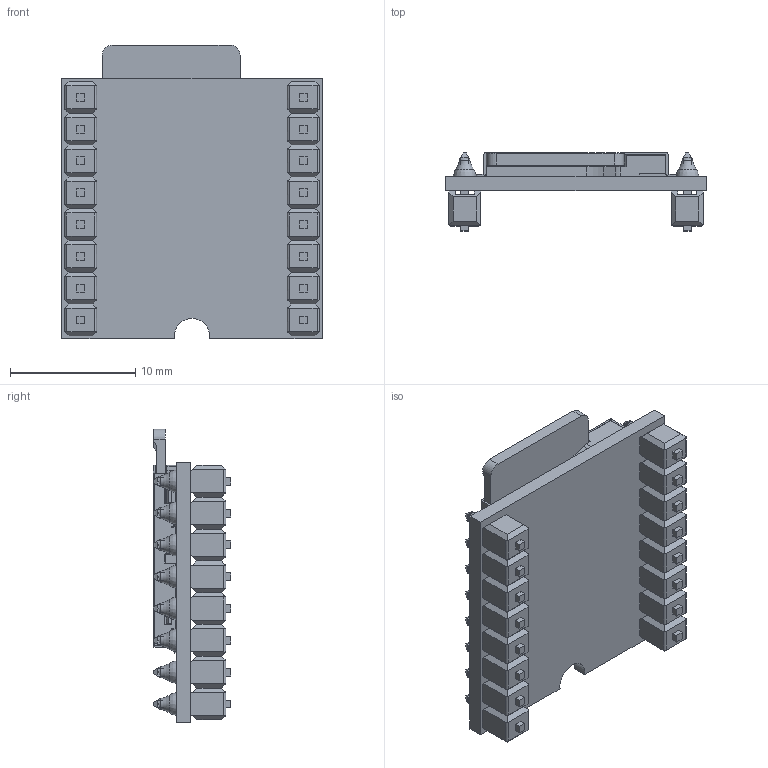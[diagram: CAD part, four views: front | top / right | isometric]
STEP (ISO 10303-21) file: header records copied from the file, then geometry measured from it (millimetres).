
FILE_DESCRIPTION(/* description */ (''),/* implementation_level */ '2;1');
FILE_NAME(/* name */ 'DFPlayer Mini Assem v_mod.step',/* time_stamp */ '2024-03-13T12:17:09+01:00',/* author */ (''),/* organization */ (''),/* preprocessor_version */ 'ST-DEVELOPER v20',/* originating_system */ 'Autodesk Translation Framework v12.20.1.177',/* authorisation */ '');
FILE_SCHEMA (('AUTOMOTIVE_DESIGN { 1 0 10303 214 3 1 1 }'));
Products named in the file (9): (Non enregistré); DFPlayer Mini PCB; SD card Assem; CD card slot; Micro sd card; DFPlayer Mini Pin; 11_20mm pin; Pin Header 1x12 TH Pitch 2; solder
Assembly tree (23 placements, depth 3):
  (Non enregistré)
    DFPlayer Mini PCB
    SD card Assem
      CD card slot
      Micro sd card
    DFPlayer Mini Pin  x16
      11_20mm pin
      Pin Header 1x12 TH Pitch 2
      solder
Bounding box: 20.8 x 6.2 x 23.46 mm (x, y, z)
Volume: 1105.3 mm3; surface area: 3321.1 mm2
Topology: 51 solids, 51 shells, 2322 faces, 6165 edges, 4070 vertices
Faces by surface type: plane 1797, bspline 263, cylinder 227, torus 32, cone 3
Full cylindrical faces by diameter (mm): 0.8 x2, 1 x32
Entity records: 68555 total; most frequent: CARTESIAN_POINT 25604, ORIENTED_EDGE 9450, DIRECTION 7596, EDGE_CURVE 4725, LINE 3846, VECTOR 3846, VERTEX_POINT 3140, EDGE_LOOP 1905
